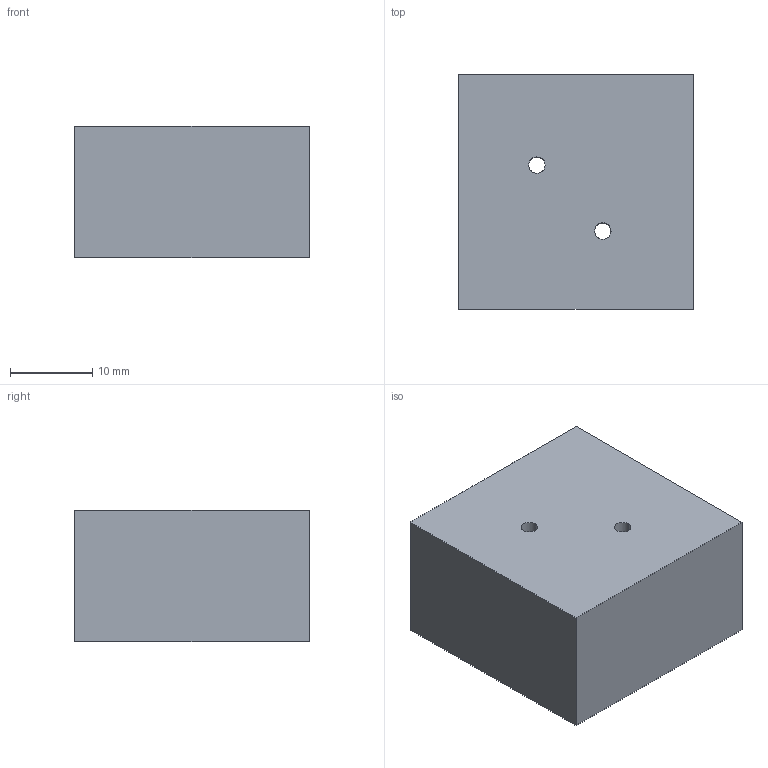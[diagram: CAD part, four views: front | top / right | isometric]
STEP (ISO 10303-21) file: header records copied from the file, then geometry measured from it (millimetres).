
FILE_DESCRIPTION (( 'STEP AP203' ), '1' );
FILE_NAME ('FT20ES04.STEP', '2026-06-26T01:13:13', ( 'USER' ), ( '' ), 'SwSTEP 2.0', 'SolidWorks 2023', '' );
FILE_SCHEMA (( 'CONFIG_CONTROL_DESIGN' ));
Length unit declared in the file: millimetre
Products named in the file (1): FT20ES04
Bounding box: 28.5 x 28.5 x 16 mm (x, y, z)
Volume: 10372.6 mm3; surface area: 4453.4 mm2
Topology: 1 solids, 1 shells, 40 faces, 95 edges, 57 vertices
Faces by surface type: cylinder 22, plane 10, cone 8
Entity records: 1356 total; most frequent: CARTESIAN_POINT 354, DIRECTION 194, ORIENTED_EDGE 190, EDGE_CURVE 95, AXIS2_PLACEMENT_3D 77, VERTEX_POINT 57, EDGE_LOOP 50, ADVANCED_FACE 40
